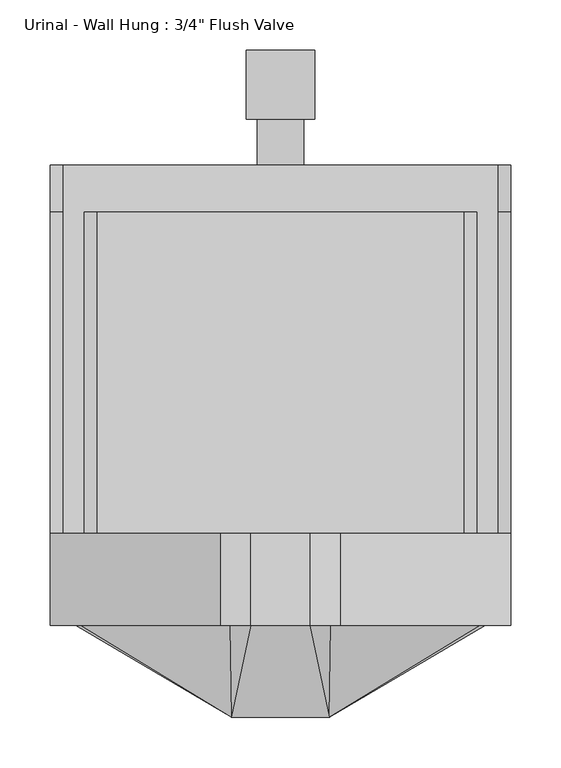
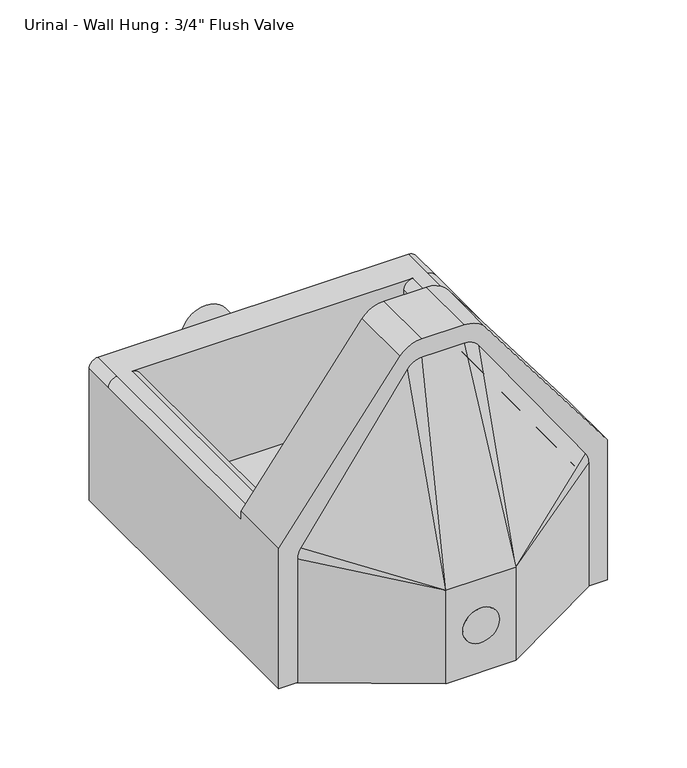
"""IFC4 building model written with IfcOpenShell, lengths in millimetres: flow terminal geometry."""

import ifcopenshell
import ifcopenshell.guid

model = None  # the IFC model being written
_history = None  # IfcOwnerHistory: only IFC2X3 demands one
_inside = {}  # id of a spatial element -> (the spatial element, [elements in it])
_under = {}  # id of a project, library or spatial element -> (it, [spatial elements below it])
_declared = {}  # id of a project -> (the project, [libraries it declares])
_typed = {}  # id of a type object -> (the type object, [elements of that type])
_made_of = {}  # id of a material, layer set ... -> (it, [elements and type objects made of it])


def new_model(schema):
    """Start an empty IFC model of exactly this schema.

    Asked for "IFC4X3", IfcOpenShell would pick the latest addendum, in which some entities
    have other attributes; the version numbers below select the first issue.
    IFC2X3 requires an IfcOwnerHistory on every rooted entity: one is made here for all.
    """
    global model, _history
    if schema == "IFC4X3":
        model = ifcopenshell.file(schema_version=(4, 3, 0, 0))
    else:
        model = ifcopenshell.file(schema=schema)
    _inside.clear()
    _under.clear()
    _declared.clear()
    _typed.clear()
    _made_of.clear()
    _history = None
    if model.schema == "IFC2X3":
        org = make("IfcOrganization", Name="unknown")
        user = make(
            "IfcPersonAndOrganization",
            ThePerson=make("IfcPerson", FamilyName="unknown"),
            TheOrganization=org,
        )
        app = make(
            "IfcApplication",
            ApplicationDeveloper=org,
            Version="unknown",
            ApplicationFullName="unknown",
            ApplicationIdentifier="unknown",
        )
        _history = make(
            "IfcOwnerHistory",
            OwningUser=user,
            OwningApplication=app,
            ChangeAction="ADDED",
            CreationDate=0,
        )
    return model


def make(cls, **values):
    """One entity of the class cls with the attributes given. An attribute that is None is left unset."""
    return model.create_entity(
        cls, **{name: value for name, value in values.items() if value is not None}
    )


def rooted(cls, **values):
    """An entity with a GlobalId (a new one), such as an element, a storey or a relation."""
    return make(cls, GlobalId=ifcopenshell.guid.new(), OwnerHistory=_history, **values)


def si_unit(unit_type, name, prefix=None):
    """IfcSIUnit, for example si_unit("LENGTHUNIT", "METRE", prefix="MILLI")."""
    return make("IfcSIUnit", UnitType=unit_type, Prefix=prefix, Name=name)


def assignment(units):
    """IfcUnitAssignment: the units of a project."""
    return None if units is None else make("IfcUnitAssignment", Units=units)


def point(xyz):
    """IfcCartesianPoint."""
    return None if xyz is None else make("IfcCartesianPoint", Coordinates=xyz)


def direction(xyz):
    """IfcDirection."""
    return None if xyz is None else make("IfcDirection", DirectionRatios=xyz)


def frame(location, z_axis=None, x_axis=None):
    """IfcAxis2Placement3D, a coordinate frame: its origin and axes. An axis left out is left unset."""
    return make(
        "IfcAxis2Placement3D",
        Location=point(location),
        Axis=direction(z_axis),
        RefDirection=direction(x_axis),
    )


def frame_2d(location, x_axis=None):
    """IfcAxis2Placement2D, a coordinate frame in the plane: its origin and x axis."""
    return make(
        "IfcAxis2Placement2D", Location=point(location), RefDirection=direction(x_axis)
    )


def origin():
    """The frame at (0, 0, 0) with its axes left unset."""
    return frame((0.0, 0.0, 0.0))


def place(relative_to, where):
    """IfcLocalPlacement: puts the frame where relative to a parent placement (None: the world)."""
    return make(
        "IfcLocalPlacement", PlacementRelTo=relative_to, RelativePlacement=where
    )


def context(
    kind, dimensions, precision=None, world=None, true_north=None, identifier=None
):
    """IfcGeometricRepresentationContext, for example the 3D "Model" context."""
    return make(
        "IfcGeometricRepresentationContext",
        ContextIdentifier=identifier,
        ContextType=kind,
        CoordinateSpaceDimension=dimensions,
        Precision=precision,
        WorldCoordinateSystem=world,
        TrueNorth=true_north,
    )


def project(units=None, contexts=None):
    """IfcProject with its units and contexts."""
    return rooted(
        "IfcProject",
        Name="project",
        RepresentationContexts=contexts,
        UnitsInContext=assignment(units),
    )


def spatial(cls, under=None, at=None, **own):
    """A site, building, storey or space (cls), placed at a placement, below another one or the project."""
    s = rooted(cls, ObjectPlacement=at, **own)
    if under is not None:
        _under.setdefault(under.id(), (under, []))[1].append(s)
    return s


def circle_curve(where, radius):
    """IfcCircle in the frame where."""
    return make("IfcCircle", Position=where, Radius=radius)


def trimmed(basis, trim1, trim2, sense, master):
    """IfcTrimmedCurve: the piece of a basis curve between two trims."""
    return make(
        "IfcTrimmedCurve",
        BasisCurve=basis,
        Trim1=trim1,
        Trim2=trim2,
        SenseAgreement=sense,
        MasterRepresentation=master,
    )


def segment(curve, same_sense, transition):
    """IfcCompositeCurveSegment."""
    return make(
        "IfcCompositeCurveSegment",
        Transition=transition,
        SameSense=same_sense,
        ParentCurve=curve,
    )


def composite_curve(segments, self_intersect=None):
    """IfcCompositeCurve: segments joined end to end."""
    return make("IfcCompositeCurve", Segments=segments, SelfIntersect=self_intersect)


def outline(outer, holes=None, kind="AREA"):
    """IfcArbitraryClosedProfileDef: a profile drawn as a closed curve; with holes, ...WithVoids."""
    if holes is None:
        return make("IfcArbitraryClosedProfileDef", ProfileType=kind, OuterCurve=outer)
    return make(
        "IfcArbitraryProfileDefWithVoids",
        ProfileType=kind,
        OuterCurve=outer,
        InnerCurves=holes,
    )


def extrude(swept, where, along, depth):
    """IfcExtrudedAreaSolid: the profile swept, set in the frame where, extruded along a direction by depth."""
    return make(
        "IfcExtrudedAreaSolid",
        SweptArea=swept,
        Position=where,
        ExtrudedDirection=direction(along),
        Depth=depth,
    )


def shape(context_of_items, identifier, shape_type, items):
    """IfcShapeRepresentation: the items that make up one representation, for example the "Body"."""
    return make(
        "IfcShapeRepresentation",
        ContextOfItems=context_of_items,
        RepresentationIdentifier=identifier,
        RepresentationType=shape_type,
        Items=items,
    )


def source(mapping_origin, context_of_items, identifier, shape_type, items):
    """IfcRepresentationMap: a shape defined once, which mapped items show again and again."""
    return make(
        "IfcRepresentationMap",
        MappingOrigin=mapping_origin,
        MappedRepresentation=shape(context_of_items, identifier, shape_type, items),
    )


def transform(
    local_origin,
    x_axis=None,
    y_axis=None,
    z_axis=None,
    scale=None,
    scale2=None,
    scale3=None,
    uniform=True,
):
    """IfcCartesianTransformationOperator3D, or its non-uniform kind. x_axis, y_axis, z_axis: its Axis1, 2, 3."""
    if uniform:
        return make(
            "IfcCartesianTransformationOperator3D",
            Axis1=direction(x_axis),
            Axis2=direction(y_axis),
            LocalOrigin=point(local_origin),
            Scale=scale,
            Axis3=direction(z_axis),
        )
    return make(
        "IfcCartesianTransformationOperator3DnonUniform",
        Axis1=direction(x_axis),
        Axis2=direction(y_axis),
        LocalOrigin=point(local_origin),
        Scale=scale,
        Axis3=direction(z_axis),
        Scale2=scale2,
        Scale3=scale3,
    )


def mapped(mapping_source, mapping_target):
    """IfcMappedItem: shows the shape of a source again, moved by a transform."""
    return make(
        "IfcMappedItem", MappingSource=mapping_source, MappingTarget=mapping_target
    )


def made_of(thing, what):
    """Note that an element or type object is made of a material, layer set ...; save() writes the relation."""
    if what is not None:
        _made_of.setdefault(what.id(), (what, []))[1].append(thing)
    return thing


def element(
    cls,
    number,
    at=None,
    inside=None,
    cuts=None,
    type_object=None,
    material=None,
    context=None,
    identifier="Body",
    shape_type=None,
    held_by="IfcProductDefinitionShape",
    body=None,
    shapes=None,
    **own,
):
    """One element of the class cls, such as IfcWall. Its Tag is "e" and its number.

    at: its placement. inside: the storey or other place that contains it. cuts: it is an
    opening in that element (IfcRelVoidsElement). A single representation is given by context,
    identifier, shape_type and body (its items); several are given by shapes. held_by: the class
    of the entity that holds the representations. save() writes the other relations.
    """
    e = rooted(cls, Tag="e%d" % number, ObjectPlacement=at, **own)
    if body is not None:
        shapes = [shape(context, identifier, shape_type, body)]
    if shapes is not None:
        e.Representation = make(held_by, Representations=shapes)
    if inside is not None:
        _inside.setdefault(inside.id(), (inside, []))[1].append(e)
    if cuts is not None:
        rooted(
            "IfcRelVoidsElement", RelatingBuildingElement=cuts, RelatedOpeningElement=e
        )
    if type_object is not None:
        _typed.setdefault(type_object.id(), (type_object, []))[1].append(e)
    return made_of(e, material)


def aggregate(whole, parts):
    """IfcRelAggregates: a whole, such as a stair, and the parts it consists of."""
    return rooted("IfcRelAggregates", RelatingObject=whole, RelatedObjects=parts)


def save(model, path):
    """Write the relations noted so far, then the file.

    IfcRelAggregates (storeys below a building ...), IfcRelContainedInSpatialStructure (elements
    in a storey), IfcRelDefinesByType, IfcRelAssociatesMaterial and IfcRelDeclares: one each for
    every whole, place, type object, material and project.
    """
    for whole, parts in _under.values():
        aggregate(whole, parts)
    for where, things in _inside.values():
        rooted(
            "IfcRelContainedInSpatialStructure",
            RelatedElements=things,
            RelatingStructure=where,
        )
    for kind, things in _typed.values():
        rooted("IfcRelDefinesByType", RelatedObjects=things, RelatingType=kind)
    for what, things in _made_of.values():
        rooted("IfcRelAssociatesMaterial", RelatedObjects=things, RelatingMaterial=what)
    for by, libraries in _declared.values():
        rooted("IfcRelDeclares", RelatingContext=by, RelatedDefinitions=libraries)
    model.write(path)


def plane_surface(at):
    """IfcPlane: the flat surface through the origin of the frame at, square to its z axis."""
    return make("IfcPlane", Position=at)


def cylinder_surface(at, radius):
    """IfcCylindricalSurface: all points at the distance radius from the z axis of the frame at."""
    return make("IfcCylindricalSurface", Position=at, Radius=radius)


def spline_surface(u_degree, v_degree, points, u_multiplicities, v_multiplicities, u_knots, v_knots, weights=None):
    """IfcBSplineSurfaceWithKnots; with weights, IfcRationalBSplineSurfaceWithKnots. points: one row for each step in u."""
    own = dict(
        UDegree=u_degree,
        VDegree=v_degree,
        ControlPointsList=[[point(p) for p in row] for row in points],
        SurfaceForm="UNSPECIFIED",
        UClosed=False,
        VClosed=False,
        SelfIntersect=False,
        UMultiplicities=u_multiplicities,
        VMultiplicities=v_multiplicities,
        UKnots=u_knots,
        VKnots=v_knots,
        KnotSpec="UNSPECIFIED",
    )
    if weights is None:
        return make("IfcBSplineSurfaceWithKnots", **own)
    return make("IfcRationalBSplineSurfaceWithKnots", WeightsData=weights, **own)


def advanced_brep(points, edges, surfaces, faces):
    """IfcAdvancedBrep: a solid bounded by faces that lie on surfaces and meet in shared edges.

    An edge is (start, end): straight between two places in points (the first is 0);
    or (start, end, curve); or (start, end, curve, False) where it runs against its curve.
    A face is (place in surfaces, loops), or (place, loops, False) where it looks against
    its surface's normal. A loop lists edges by number (the first is 1), with a minus sign
    where the edge is run from its end to its start. The first loop is the outer one.
    """
    corners = [point(p) for p in points]
    vertices = [make("IfcVertexPoint", VertexGeometry=c) for c in corners]
    made = []
    for start, end, *more in edges:
        made.append(
            make(
                "IfcEdgeCurve",
                EdgeStart=vertices[start],
                EdgeEnd=vertices[end],
                EdgeGeometry=more[0] if more else make("IfcPolyline", Points=[corners[start], corners[end]]),
                SameSense=more[1] if len(more) > 1 else True,
            )
        )
    hull = []
    for where, loops, *sense in faces:
        bounds = []
        for j, loop in enumerate(loops):
            ring = [make("IfcOrientedEdge", EdgeElement=made[abs(k) - 1], Orientation=k > 0) for k in loop]
            bounds.append(
                make(
                    "IfcFaceOuterBound" if j == 0 else "IfcFaceBound",
                    Bound=make("IfcEdgeLoop", EdgeList=ring),
                    Orientation=True,
                )
            )
        hull.append(make("IfcAdvancedFace", Bounds=bounds, FaceSurface=surfaces[where], SameSense=sense[0] if sense else True))
    return make("IfcAdvancedBrep", Outer=make("IfcClosedShell", CfsFaces=hull))


def flow_terminal_8e6902d4(model_context):
    return source(origin(), model_context, "Body", "SolidModel", [
        extrude(outline(composite_curve([segment(trimmed(circle_curve(frame_2d((68.659375, 0.0)), 25.4), [point((68.659375, -25.4))], [point((68.659375, 25.4))], False, "CARTESIAN"), True, "CONTINUOUS"), segment(trimmed(circle_curve(frame_2d((68.659375, 0.0)), 25.4), [point((68.659375, 25.4))], [point((68.659375, -25.4))], False, "CARTESIAN"), True, "CONTINUOUS")], self_intersect=False)), frame((0.0, -182.5625, 0.0), z_axis=(0.0, 1.0, 0.0), x_axis=(0.0, 0.0, 1.0)), (0.0, 0.0, 1.0), 91.28125),
        advanced_brep(
        [(228.6, -91.28125, 0.0), (-228.6, -91.28125, 0.0), (-228.6, 365.91875, 0.0), (228.6, 365.91875, 0.0), (-59.8511275, 0.0, 429.3407681), (-29.4318712, 0.0, 444.5), (29.4318712, 0.0, 444.5), (59.8511275, 0.0, 429.3407681), (228.6, 0.0, 205.58125), (228.6, 0.0, 192.88125), (215.9, 0.0, 205.58125), (195.2625, 0.0, 205.58125), (182.5625, 0.0, 192.88125), (182.5625, 0.0, 183.5881239), (31.5245701, 0.0, 398.4625), (-31.5245701, 0.0, 398.4625), (-182.5625, 0.0, 183.5881239), (-182.5625, 0.0, 192.88125), (-195.2625, 0.0, 205.58125), (-215.9, 0.0, 205.58125), (-228.6, 0.0, 192.88125), (-228.6, 0.0, 205.58125), (-228.6, -91.28125, 205.58125), (-228.6, 319.88125, 192.88125), (-228.6, 365.91875, 192.88125), (228.6, -91.28125, 205.58125), (59.8511275, -91.28125, 429.3407681), (29.4318712, -91.28125, 444.5), (-29.4318712, -91.28125, 444.5), (-59.8511275, -91.28125, 429.3407681), (31.5245701, -91.28125, 398.4625), (182.5625, -91.28125, 183.5881239), (182.5625, -91.28125, 25.4), (-182.5625, -91.28125, 25.4), (-182.5625, -91.28125, 183.5881239), (-31.5245701, -91.28125, 398.4625), (228.6, 365.91875, 192.88125), (228.6, 319.88125, 192.88125), (-182.5625, 319.88125, 25.4), (-182.5625, 319.88125, 192.88125), (182.5625, 319.88125, 25.4), (182.5625, 319.88125, 192.88125), (195.2625, 319.88125, 205.58125), (-195.2625, 319.88125, 205.58125), (215.9, 365.91875, 205.58125), (-215.9, 365.91875, 205.58125), (-215.9, 319.88125, 205.58125), (215.9, 319.88125, 205.58125)],
        [
            (0, 1),
            (1, 2),
            (2, 3),
            (3, 0),
            (4, 5, circle_curve(frame((-29.4318712, 0.0, 406.4), z_axis=(0.0, 1.0, 0.0), x_axis=(1.0, 0.0, 0.0)), 38.1)),
            (5, 6),
            (6, 7, circle_curve(frame((29.4318712, 0.0, 406.4), z_axis=(0.0, 1.0, 0.0), x_axis=(1.0, 0.0, 0.0)), 38.1)),
            (7, 8),
            (8, 9),
            (9, 10, circle_curve(frame((215.9, 0.0, 192.88125), z_axis=(0.0, -1.0, 0.0), x_axis=(1.0, 0.0, 0.0)), 12.7)),
            (10, 11),
            (11, 12, circle_curve(frame((195.2625, 0.0, 192.88125), z_axis=(0.0, -1.0, 0.0), x_axis=(1.0, 0.0, 0.0)), 12.7)),
            (12, 13),
            (13, 14),
            (14, 15),
            (15, 16),
            (16, 17),
            (17, 18, circle_curve(frame((-195.2625, 0.0, 192.88125), z_axis=(0.0, -1.0, 0.0), x_axis=(1.0, 0.0, 0.0)), 12.7)),
            (18, 19),
            (19, 20, circle_curve(frame((-215.9, 0.0, 192.88125), z_axis=(0.0, -1.0, 0.0), x_axis=(1.0, 0.0, 0.0)), 12.7)),
            (20, 21),
            (21, 4),
            (1, 22),
            (22, 21),
            (20, 23),
            (23, 24),
            (24, 2),
            (0, 25),
            (25, 26),
            (26, 27, circle_curve(frame((29.4318712, -91.28125, 406.4), z_axis=(0.0, -1.0, 0.0), x_axis=(1.0, 0.0, 0.0)), 38.1)),
            (27, 28),
            (28, 29, circle_curve(frame((-29.4318712, -91.28125, 406.4), z_axis=(0.0, -1.0, 0.0), x_axis=(1.0, 0.0, 0.0)), 38.1)),
            (29, 22),
            (30, 31),
            (31, 32),
            (32, 33),
            (33, 34),
            (34, 35),
            (35, 30),
            (3, 36),
            (36, 37),
            (37, 9),
            (8, 25),
            (29, 4),
            (7, 26),
            (6, 27),
            (5, 28),
            (13, 31),
            (30, 14),
            (35, 15),
            (34, 16),
            (33, 38),
            (38, 39),
            (39, 17),
            (32, 40),
            (40, 38),
            (12, 41),
            (41, 40),
            (42, 43),
            (43, 39, circle_curve(frame((-195.2625, 319.88125, 192.88125), z_axis=(0.0, 1.0, 0.0), x_axis=(1.0, 0.0, 0.0)), 12.7)),
            (41, 42, circle_curve(frame((195.2625, 319.88125, 192.88125), z_axis=(0.0, 1.0, 0.0), x_axis=(1.0, 0.0, 0.0)), 12.7)),
            (44, 36, circle_curve(frame((215.9, 365.91875, 192.88125), z_axis=(0.0, 1.0, 0.0), x_axis=(1.0, 0.0, 0.0)), 12.7)),
            (24, 45, circle_curve(frame((-215.9, 365.91875, 192.88125), z_axis=(0.0, 1.0, 0.0), x_axis=(1.0, 0.0, 0.0)), 12.7)),
            (45, 44),
            (45, 46),
            (46, 19),
            (18, 43),
            (42, 11),
            (10, 47),
            (47, 44),
            (23, 46, circle_curve(frame((-215.9, 319.88125, 192.88125), z_axis=(0.0, 1.0, 0.0), x_axis=(1.0, 0.0, 0.0)), 12.7)),
            (47, 37, circle_curve(frame((215.9, 319.88125, 192.88125), z_axis=(0.0, 1.0, 0.0), x_axis=(1.0, 0.0, 0.0)), 12.7)),
        ],
        [
            plane_surface(frame((-228.6, 0.0, 0.0), z_axis=(0.0, 0.0, -1.0), x_axis=(1.0, 0.0, 0.0))),
            plane_surface(frame((228.6, 0.0, 205.58125), z_axis=(0.0, 1.0, 0.0), x_axis=(0.0, 0.0, -1.0))),
            plane_surface(frame((-228.6, 0.0, 205.58125), z_axis=(-1.0, 0.0, 0.0), x_axis=(0.0, 0.0, -1.0))),
            plane_surface(frame((-228.6, -91.28125, 205.58125), z_axis=(0.0, -1.0, 0.0), x_axis=(0.0, 0.0, -1.0))),
            plane_surface(frame((228.6, -91.28125, 205.58125), z_axis=(1.0, 0.0, 0.0), x_axis=(0.0, 0.0, -1.0))),
            plane_surface(frame((-59.8511275, -91.28125, 429.3407681), z_axis=(-0.7984056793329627, 0.0, 0.602119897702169), x_axis=(0.0, 1.0, 0.0))),
            plane_surface(frame((228.6, -91.28125, 205.58125), z_axis=(0.7984056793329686, 0.0, 0.6021198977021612), x_axis=(0.0, 1.0, 0.0))),
            cylinder_surface(frame((29.4318712, 0.0, 406.4), z_axis=(0.0, -1.0, 0.0), x_axis=(1.0, 0.0, 0.0)), 38.1),
            plane_surface(frame((29.4318712, -91.28125, 444.5), z_axis=(0.0, 0.0, 1.0), x_axis=(0.0, 1.0, 0.0))),
            cylinder_surface(frame((-29.4318712, 0.0, 406.4), z_axis=(0.0, -1.0, 0.0), x_axis=(1.0, 0.0, 0.0)), 38.1),
            plane_surface(frame((182.5625, -91.28125, 183.5881239), z_axis=(-0.8181108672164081, 0.0, -0.5750605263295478), x_axis=(0.0, 1.0, 0.0))),
            plane_surface(frame((31.5245701, -91.28125, 398.4625), z_axis=(0.0, 0.0, -1.0), x_axis=(0.0, 1.0, 0.0))),
            plane_surface(frame((-31.5245701, -91.28125, 398.4625), z_axis=(0.8181108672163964, 0.0, -0.5750605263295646), x_axis=(0.0, 1.0, 0.0))),
            plane_surface(frame((-182.5625, -91.28125, 183.5881239), z_axis=(1.0, 0.0, 0.0), x_axis=(0.0, 1.0, 0.0))),
            plane_surface(frame((-182.5625, -91.28125, 25.4), z_axis=(0.0, 0.0, 1.0), x_axis=(0.0, 1.0, 0.0))),
            plane_surface(frame((182.5625, -91.28125, 25.4), z_axis=(-1.0, 0.0, 0.0), x_axis=(0.0, 1.0, 0.0))),
            plane_surface(frame((-215.9, 319.88125, 205.58125), z_axis=(0.0, -1.0, 0.0), x_axis=(-1.0, 0.0, 0.0))),
            plane_surface(frame((-215.9, 365.91875, 205.58125), z_axis=(0.0, 1.0, 0.0), x_axis=(1.0, 0.0, 0.0))),
            plane_surface(frame((215.9, 319.88125, 205.58125), z_axis=(0.0, 0.0, 1.0), x_axis=(0.0, 1.0, 0.0))),
            cylinder_surface(frame((-215.9, 365.91875, 192.88125), z_axis=(0.0, -1.0, 0.0), x_axis=(1.0, 0.0, 0.0)), 12.7),
            cylinder_surface(frame((215.9, 365.91875, 192.88125), z_axis=(0.0, -1.0, 0.0), x_axis=(1.0, 0.0, 0.0)), 12.7),
            cylinder_surface(frame((-215.9, 319.88125, 192.88125), z_axis=(0.0, -1.0, 0.0), x_axis=(1.0, 0.0, 0.0)), 12.7),
            cylinder_surface(frame((215.9, 319.88125, 192.88125), z_axis=(0.0, -1.0, 0.0), x_axis=(1.0, 0.0, 0.0)), 12.7),
            cylinder_surface(frame((195.2625, 319.88125, 192.88125), z_axis=(0.0, -1.0, 0.0), x_axis=(1.0, 0.0, 0.0)), 12.7),
            cylinder_surface(frame((-195.2625, 319.88125, 192.88125), z_axis=(0.0, -1.0, 0.0), x_axis=(1.0, 0.0, 0.0)), 12.7),
        ],
        [
            (0, [[1, 2, 3, 4]]),
            (1, [[5, 6, 7, 8, 9, 10, 11, 12, 13, 14, 15, 16, 17, 18, 19, 20, 21, 22]]),
            (2, [[-2, 23, 24, -21, 25, 26, 27]]),
            (3, [[-1, 28, 29, 30, 31, 32, 33, -23], [34, 35, 36, 37, 38, 39]]),
            (4, [[-4, 40, 41, 42, -9, 43, -28]]),
            (5, [[-33, 44, -22, -24]]),
            (6, [[-29, -43, -8, 45]]),
            (7, [[-30, -45, -7, 46]]),
            (8, [[-31, -46, -6, 47]]),
            (9, [[-32, -47, -5, -44]]),
            (10, [[48, -34, 49, -14]]),
            (11, [[-49, -39, 50, -15]]),
            (12, [[-50, -38, 51, -16]]),
            (13, [[-51, -37, 52, 53, 54, -17]]),
            (14, [[-52, -36, 55, 56]]),
            (15, [[-48, -13, 57, 58, -55, -35]]),
            (16, [[59, 60, -53, -56, -58, 61]]),
            (17, [[62, -40, -3, -27, 63, 64]]),
            (18, [[-64, 65, 66, -19, 67, -59, 68, -11, 69, 70]]),
            (19, [[-63, -26, 71, -65]]),
            (20, [[-62, -70, 72, -41]]),
            (21, [[-66, -71, -25, -20]]),
            (22, [[-42, -72, -69, -10]]),
            (23, [[-68, -61, -57, -12]]),
            (24, [[-67, -18, -54, -60]]),
        ],
    ),
        extrude(outline(composite_curve([segment(trimmed(circle_curve(frame_2d((102.790625, 0.0)), 34.13125), [point((102.790625, -34.13125))], [point((102.790625, 34.13125))], False, "CARTESIAN"), True, "CONTINUOUS"), segment(trimmed(circle_curve(frame_2d((102.790625, 0.0)), 34.13125), [point((102.790625, 34.13125))], [point((102.790625, -34.13125))], False, "CARTESIAN"), True, "CONTINUOUS")], self_intersect=False)), frame((0.0, 411.95625, 0.0), z_axis=(0.0, 1.0, 0.0), x_axis=(0.0, 0.0, 1.0)), (0.0, 0.0, 1.0), 68.2625),
        advanced_brep(
        [(48.41875, -182.5625, 137.31875), (-48.41875, -182.5625, 137.31875), (-48.41875, -182.5625, 0.0), (48.41875, -182.5625, 0.0), (29.0508537, -91.28125, 419.1), (49.8308698, -91.28125, 408.3065374), (198.580016, -91.28125, 196.6883033), (203.2, -91.28125, 182.0817659), (203.2, -91.28125, 0.0), (-203.2, -91.28125, 0.0), (-203.2, -91.28125, 182.0817659), (-198.580016, -91.28125, 196.6883033), (-49.8308698, -91.28125, 408.3065374), (-29.0508537, -91.28125, 419.1)],
        [
            (0, 1),
            (1, 2),
            (2, 3),
            (3, 0),
            (4, 5, circle_curve(frame((29.0508537, -91.28125, 393.7), z_axis=(0.0, 1.0, 0.0), x_axis=(1.0, 0.0, 0.0)), 25.4)),
            (5, 6),
            (6, 7, circle_curve(frame((177.8, -91.28125, 182.0817659), z_axis=(0.0, 1.0, 0.0), x_axis=(1.0, 0.0, 0.0)), 25.4)),
            (7, 8),
            (8, 9),
            (9, 10),
            (10, 11, circle_curve(frame((-177.8, -91.28125, 182.0817659), z_axis=(0.0, 1.0, 0.0), x_axis=(1.0, 0.0, 0.0)), 25.4)),
            (11, 12),
            (12, 13, circle_curve(frame((-29.0508537, -91.28125, 393.7), z_axis=(0.0, 1.0, 0.0), x_axis=(1.0, 0.0, 0.0)), 25.4)),
            (13, 4),
            (13, 1),
            (0, 4),
            (12, 1),
            (11, 1),
            (10, 1),
            (9, 2),
            (8, 3),
            (7, 0),
            (6, 0),
            (5, 0),
        ],
        [
            plane_surface(frame((0.0, -182.5625, 68.659375), z_axis=(0.0, -1.0, 0.0), x_axis=(-1.0, 0.0, 0.0))),
            plane_surface(frame((0.0, -91.28125, 241.2353213), z_axis=(0.0, 1.0, 0.0), x_axis=(-1.0, 0.0, 0.0))),
            plane_surface(frame((0.0, -91.28125, 419.1), z_axis=(0.0, -0.9513290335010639, 0.3081770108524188), x_axis=(-1.0, 0.0, 0.0))),
            spline_surface(2, 1, [[(-29.0508537, -91.28125, 419.1), (-48.41875, -182.5625, 137.31875)], [(-42.244007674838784, -91.28125, 419.09999995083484), (-48.41875, -182.5625, 137.31875)], [(-49.8308698, -91.28125, 408.3065374), (-48.41875, -182.5625, 137.31875)]], [3, 3], [2, 2], [0.0, 1.0], [0.0, 1.0], weights=[[1.0, 1.0], [0.887429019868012, 0.887429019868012], [1.0, 1.0]]),
            plane_surface(frame((-124.2054429, -91.28125, 302.4974203), z_axis=(-0.41122685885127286, -0.8644875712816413, 0.28905658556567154), x_axis=(-0.5750605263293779, 0.0, -0.8181108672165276))),
            spline_surface(2, 1, [[(-198.580016, -91.28125, 196.6883033), (-48.41875, -182.5625, 137.31875)], [(-203.19999999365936, -91.28125, 190.11567498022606), (-48.41875, -182.5625, 137.31875)], [(-203.2, -91.28125, 182.0817659), (-48.41875, -182.5625, 137.31875)]], [3, 3], [2, 2], [0.0, 1.0], [0.0, 1.0], weights=[[1.0, 1.0], [0.9534439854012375, 0.9534439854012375], [1.0, 1.0]]),
            plane_surface(frame((-203.2, -91.28125, 91.040883), z_axis=(-0.50798501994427, -0.8613659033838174, 0.0), x_axis=(0.0, 0.0, -1.0))),
            plane_surface(frame((0.0, -91.28125, 0.0), z_axis=(0.0, 0.0, -1.0), x_axis=(1.0, 0.0, 0.0))),
            plane_surface(frame((203.2, -91.28125, 91.040883), z_axis=(0.5079850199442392, -0.8613659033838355, 0.0), x_axis=(0.0, 0.0, 1.0))),
            spline_surface(2, 1, [[(203.2, -91.28125, 182.0817659), (48.41875, -182.5625, 137.31875)], [(203.2000000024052, -91.28125, 190.11567498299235), (48.41875, -182.5625, 137.31875)], [(198.580016, -91.28125, 196.6883033), (48.41875, -182.5625, 137.31875)]], [3, 3], [2, 2], [0.0, 1.0], [0.0, 1.0], weights=[[1.0, 1.0], [0.9534439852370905, 0.9534439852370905], [1.0, 1.0]]),
            plane_surface(frame((124.2054429, -91.28125, 302.4974203), z_axis=(0.41122685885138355, -0.8644875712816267, 0.28905658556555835), x_axis=(-0.5750605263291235, 0.0, 0.8181108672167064))),
            spline_surface(2, 1, [[(49.8308698, -91.28125, 408.3065374), (48.41875, -182.5625, 137.31875)], [(42.244007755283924, -91.28125, 419.1000001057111), (48.41875, -182.5625, 137.31875)], [(29.0508537, -91.28125, 419.1), (48.41875, -182.5625, 137.31875)]], [3, 3], [2, 2], [0.0, 1.0], [0.0, 1.0], weights=[[1.0, 1.0], [0.8874290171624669, 0.8874290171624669], [1.0, 1.0]]),
        ],
        [
            (0, [[1, 2, 3, 4]]),
            (1, [[5, 6, 7, 8, 9, 10, 11, 12, 13, 14]]),
            (2, [[-14, 15, -1, 16]]),
            (3, [[-13, 17, -15]]),
            (4, [[-12, 18, -17]]),
            (5, [[-11, 19, -18]]),
            (6, [[-10, 20, -2, -19]]),
            (7, [[-9, 21, -3, -20]]),
            (8, [[-8, 22, -4, -21]]),
            (9, [[-7, 23, -22]]),
            (10, [[-6, 24, -23]]),
            (11, [[-5, -16, -24]]),
        ],
    ),
        extrude(outline(composite_curve([segment(trimmed(circle_curve(frame_2d((102.790625, 0.0)), 23.01875), [point((102.790625, -23.01875))], [point((102.790625, 23.01875))], False, "CARTESIAN"), True, "CONTINUOUS"), segment(trimmed(circle_curve(frame_2d((102.790625, 0.0)), 23.01875), [point((102.790625, 23.01875))], [point((102.790625, -23.01875))], False, "CARTESIAN"), True, "CONTINUOUS")], self_intersect=False)), frame((0.0, 365.91875, 0.0), z_axis=(0.0, 1.0, 0.0), x_axis=(0.0, 0.0, 1.0)), (0.0, 0.0, 1.0), 46.0375),
    ])


if __name__ == "__main__":
    model = new_model("IFC4")
    model_context = context("Model", 3, world=origin())
    ifc_project = project(units=[si_unit("LENGTHUNIT", "METRE", prefix="MILLI")], contexts=[model_context])
    site = spatial("IfcSite", under=ifc_project)
    building = spatial("IfcBuilding", under=site)
    placement = place(None, origin())
    flow_terminal_shape = flow_terminal_8e6902d4(model_context)
    element("IfcFlowTerminal", 1, ObjectType="Urinal - Wall Hung : 3/4\" Flush Valve", at=placement, inside=building, context=model_context, shape_type="MappedRepresentation", body=[
        mapped(flow_terminal_shape, transform((0.0, 0.0, 0.0), x_axis=(1.0, 0.0, 0.0), y_axis=(0.0, 1.0, 0.0), z_axis=(0.0, 0.0, 1.0))),
    ])
    save(model, "model.ifc")
